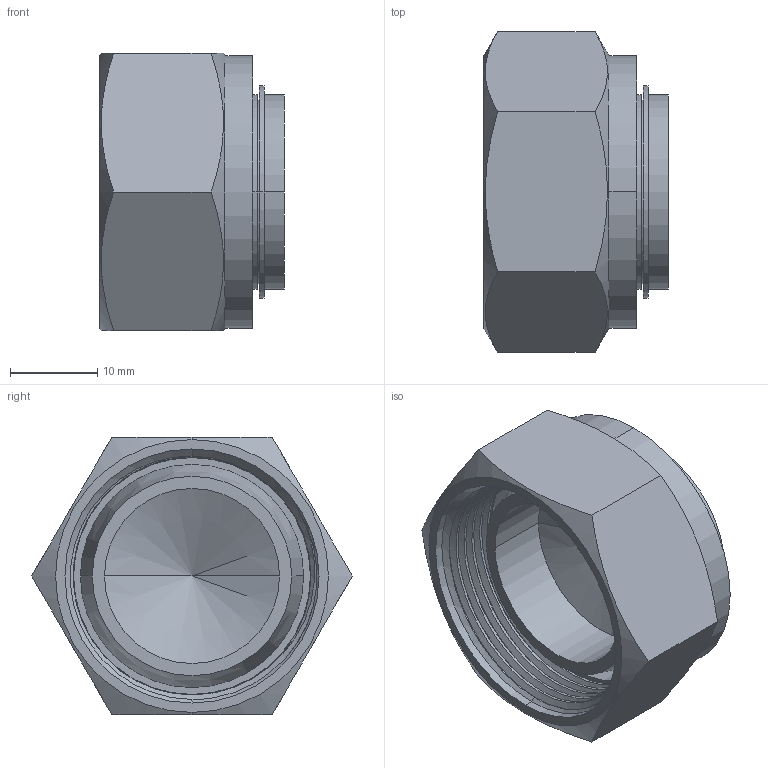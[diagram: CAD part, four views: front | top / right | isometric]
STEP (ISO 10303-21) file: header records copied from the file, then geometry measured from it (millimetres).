
FILE_DESCRIPTION (( 'STEP AP203' ), '1' );
FILE_NAME ('DBA14 SS.STEP', '2009-09-08T04:42:06', ( ' ' ), ( '' ), 'SwSTEP 2.0', 'SolidWorks 2008', '' );
FILE_SCHEMA (( 'CONFIG_CONTROL_DESIGN' ));
Length unit declared in the file: millimetre
Products named in the file (1): DBA14 SS
Bounding box: 21.08 x 36.66 x 31.75 mm (x, y, z)
Volume: 9543.4 mm3; surface area: 6782.6 mm2
Topology: 2 solids, 2 shells, 72 faces, 176 edges, 113 vertices
Faces by surface type: cylinder 38, plane 19, cone 12, bspline 3
Entity records: 3166 total; most frequent: CARTESIAN_POINT 1477, ORIENTED_EDGE 348, DIRECTION 327, EDGE_CURVE 174, AXIS2_PLACEMENT_3D 131, VERTEX_POINT 113, EDGE_LOOP 79, ADVANCED_FACE 72
